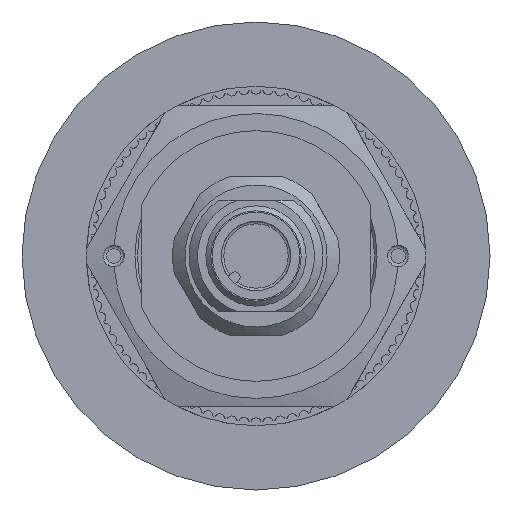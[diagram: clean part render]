
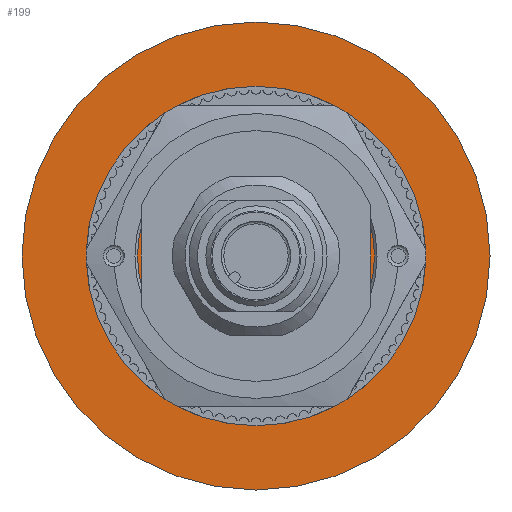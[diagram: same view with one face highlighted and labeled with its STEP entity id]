
A CAD part, front view. The second image highlights one B-rep face of the part: STEP entity #199.
In plain terms, the highlighted planar face has unit normal (0, -1, 0).
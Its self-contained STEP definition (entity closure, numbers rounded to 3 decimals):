
#199 = ADVANCED_FACE( '', ( #521, #522 ), #523, .F. );
#521 = FACE_BOUND( '', #1120, .T. );
#522 = FACE_OUTER_BOUND( '', #1121, .T. );
#523 = PLANE( '', #1122 );
#1120 = EDGE_LOOP( '', ( #1935, #1936, #1937, #1938 ) );
#1121 = EDGE_LOOP( '', ( #1939 ) );
#1122 = AXIS2_PLACEMENT_3D( '', #1940, #1941, #1942 );
#1935 = ORIENTED_EDGE( '', *, *, #4099, .F. );
#1936 = ORIENTED_EDGE( '', *, *, #4062, .T. );
#1937 = ORIENTED_EDGE( '', *, *, #4091, .F. );
#1938 = ORIENTED_EDGE( '', *, *, #4066, .T. );
#1939 = ORIENTED_EDGE( '', *, *, #4100, .T. );
#1940 = CARTESIAN_POINT( '', ( 28., 0., 0. ) );
#1941 = DIRECTION( '', ( 0., 1., 0. ) );
#1942 = DIRECTION( '', ( -1., 0., 0. ) );
#4062 = EDGE_CURVE( '', #4834, #4839, #4841, .T. );
#4066 = EDGE_CURVE( '', #4842, #4847, #4849, .T. );
#4091 = EDGE_CURVE( '', #4842, #4839, #4890, .T. );
#4099 = EDGE_CURVE( '', #4834, #4847, #4900, .T. );
#4100 = EDGE_CURVE( '', #4901, #4901, #4902, .T. );
#4834 = VERTEX_POINT( '', #6162 );
#4839 = VERTEX_POINT( '', #6169 );
#4841 = LINE( '', #6172, #6173 );
#4842 = VERTEX_POINT( '', #6174 );
#4847 = VERTEX_POINT( '', #6181 );
#4849 = LINE( '', #6184, #6185 );
#4890 = CIRCLE( '', #6233, 15. );
#4900 = CIRCLE( '', #6244, 15. );
#4901 = VERTEX_POINT( '', #6245 );
#4902 = CIRCLE( '', #6246, 28. );
#6162 = CARTESIAN_POINT( '', ( 13.75, 0., 5.995 ) );
#6169 = CARTESIAN_POINT( '', ( 13.75, 0., -5.995 ) );
#6172 = CARTESIAN_POINT( '', ( 13.75, 0., 17.5 ) );
#6173 = VECTOR( '', #7892, 1000. );
#6174 = CARTESIAN_POINT( '', ( -13.75, 0., -5.995 ) );
#6181 = CARTESIAN_POINT( '', ( -13.75, 0., 5.995 ) );
#6184 = CARTESIAN_POINT( '', ( -13.75, 0., -17.5 ) );
#6185 = VECTOR( '', #7896, 1000. );
#6233 = AXIS2_PLACEMENT_3D( '', #7962, #7963, #7964 );
#6244 = AXIS2_PLACEMENT_3D( '', #7984, #7985, #7986 );
#6245 = CARTESIAN_POINT( '', ( 28., 0., 0. ) );
#6246 = AXIS2_PLACEMENT_3D( '', #7987, #7988, #7989 );
#7892 = DIRECTION( '', ( 0., 0., -1. ) );
#7896 = DIRECTION( '', ( 0., 0., 1. ) );
#7962 = CARTESIAN_POINT( '', ( 0., 0., 0. ) );
#7963 = DIRECTION( '', ( 0., -1., 0. ) );
#7964 = DIRECTION( '', ( 1., 0., 0. ) );
#7984 = CARTESIAN_POINT( '', ( 0., 0., 0. ) );
#7985 = DIRECTION( '', ( 0., -1., 0. ) );
#7986 = DIRECTION( '', ( 1., 0., 0. ) );
#7987 = CARTESIAN_POINT( '', ( 0., 0., 0. ) );
#7988 = DIRECTION( '', ( 0., -1., 0. ) );
#7989 = DIRECTION( '', ( 1., 0., 0. ) );
